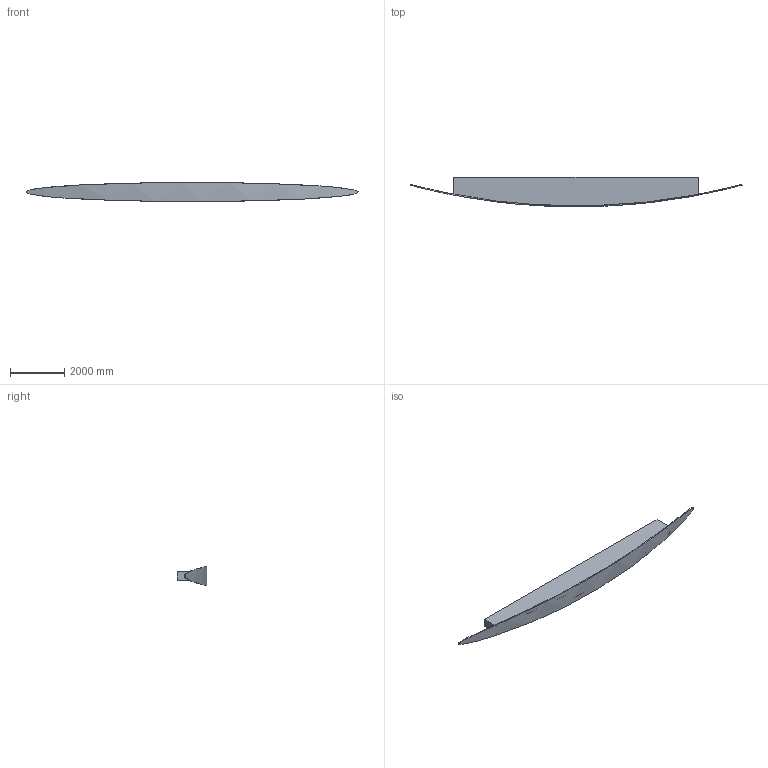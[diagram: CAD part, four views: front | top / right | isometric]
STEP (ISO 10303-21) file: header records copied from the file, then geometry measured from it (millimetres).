
FILE_DESCRIPTION(/* description */ (''),/* implementation_level */ '2;1');
FILE_NAME(/* name */ '4576',/* time_stamp */ '2022-02-01T16:15:46+01:00',/* author */ (''),/* organization */ (''),/* preprocessor_version */ 'ST-DEVELOPER v16.5',/* originating_system */ '',/* authorisation */ '');
FILE_SCHEMA (('CONFIG_CONTROL_DESIGN'));
Length unit declared in the file: centimetre
Products named in the file (1): Document
Bounding box: 12200 x 1087.77 x 699 mm (x, y, z)
Volume: 2673178223.5 mm3; surface area: 36526339.8 mm2
Topology: 2 solids, 2 shells, 12 faces, 22 edges, 14 vertices
Faces by surface type: plane 7, cylinder 3, bspline 2
Entity records: 664 total; most frequent: CARTESIAN_POINT 408, ORIENTED_EDGE 44, EDGE_CURVE 22, B_SPLINE_CURVE_WITH_KNOTS 16, VERTEX_POINT 14, DIRECTION 14, ADVANCED_FACE 12, FACE_OUTER_BOUND 12
